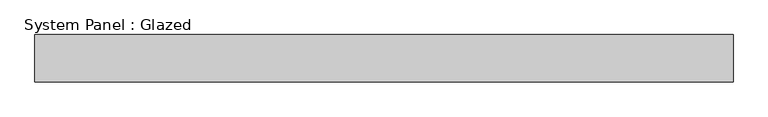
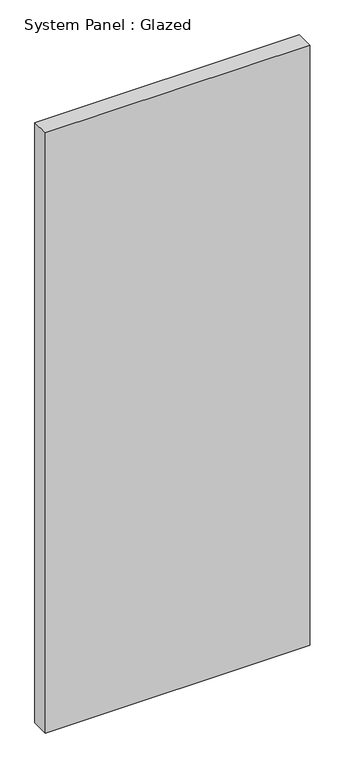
"""IFC4 building model written with IfcOpenShell, lengths in millimetres: plate geometry, System Panel : Glazed."""

from ifc_helpers import new_model, si_unit, origin, origin_with_axes, place, context, project, spatial, polyline, outline, extrude, source, transform, mapped, element, save


def system_panel_glazed_99405509(model_context):
    return source(origin(), model_context, "Body", "SweptSolid", [
        extrude(outline(polyline([(739.7727274, 50.0), (-739.7727274, 50.0), (-739.7727274, 150.0), (739.7727274, 150.0), (739.7727274, 50.0)])), origin_with_axes(), (0.0, 0.0, 1.0), 3550.0),
    ])


if __name__ == "__main__":
    model = new_model("IFC4")
    model_context = context("Model", 3, world=origin())
    ifc_project = project(units=[si_unit("LENGTHUNIT", "METRE", prefix="MILLI")], contexts=[model_context])
    site = spatial("IfcSite", under=ifc_project)
    building = spatial("IfcBuilding", under=site)
    placement = place(None, origin())
    system_panel_glazed_shape = system_panel_glazed_99405509(model_context)
    element("IfcPlate", 1, ObjectType="System Panel : Glazed", at=placement, inside=building, context=model_context, shape_type="MappedRepresentation", body=[
        mapped(system_panel_glazed_shape, transform((0.0, 0.0, 0.0), x_axis=(1.0, 0.0, 0.0), y_axis=(0.0, 1.0, 0.0), z_axis=(0.0, 0.0, 1.0))),
    ])
    save(model, "model.ifc")
